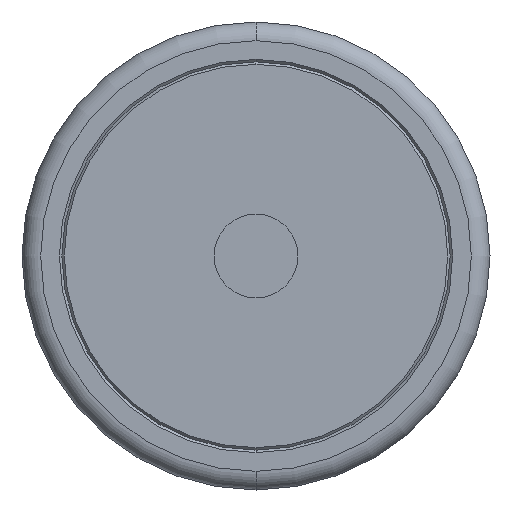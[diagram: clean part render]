
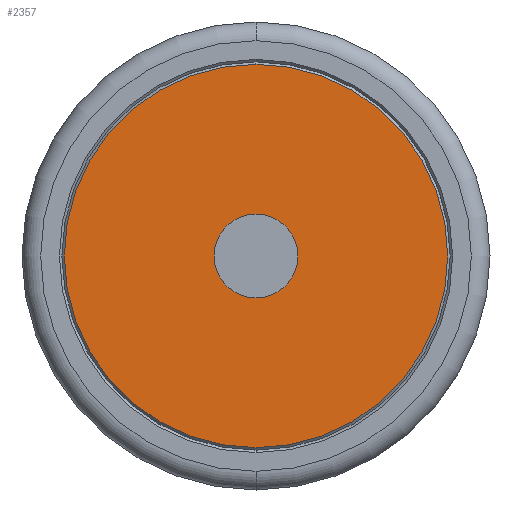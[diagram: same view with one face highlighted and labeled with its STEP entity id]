
A CAD part, front view. The second image highlights one B-rep face of the part: STEP entity #2357.
In plain terms, the highlighted planar face has unit normal (0, -1, 0).
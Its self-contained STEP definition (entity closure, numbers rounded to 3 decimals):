
#29 = AXIS2_PLACEMENT_3D ( 'NONE', #3801, #882, #61 ) ;
#61 = DIRECTION ( 'NONE',  ( 0., 0., -1. ) ) ;
#78 = AXIS2_PLACEMENT_3D ( 'NONE', #4678, #3991, #3621 ) ;
#337 = CIRCLE ( 'NONE', #3146, 22.4 ) ;
#350 = CARTESIAN_POINT ( 'NONE',  ( 0., 0., 0. ) ) ;
#420 = ORIENTED_EDGE ( 'NONE', *, *, #3551, .F. ) ;
#536 = AXIS2_PLACEMENT_3D ( 'NONE', #350, #1841, #3335 ) ;
#745 = VERTEX_POINT ( 'NONE', #3221 ) ;
#788 = CIRCLE ( 'NONE', #78, 102.4 ) ;
#805 = CARTESIAN_POINT ( 'NONE',  ( 0., 0., 22.4 ) ) ;
#847 = DIRECTION ( 'NONE',  ( 0., 0., -1. ) ) ;
#882 = DIRECTION ( 'NONE',  ( 0., -1., 0. ) ) ;
#1176 = PLANE ( 'NONE',  #29 ) ;
#1460 = ORIENTED_EDGE ( 'NONE', *, *, #3296, .T. ) ;
#1523 = CARTESIAN_POINT ( 'NONE',  ( 0., 0., 0. ) ) ;
#1564 = DIRECTION ( 'NONE',  ( 0., 1., 0. ) ) ;
#1661 = CARTESIAN_POINT ( 'NONE',  ( 0., 0., 0. ) ) ;
#1727 = DIRECTION ( 'NONE',  ( 0., 0., -1. ) ) ;
#1738 = CARTESIAN_POINT ( 'NONE',  ( 0., 0., -102.4 ) ) ;
#1841 = DIRECTION ( 'NONE',  ( 0., 1., 0. ) ) ;
#1858 = EDGE_CURVE ( 'NONE', #745, #3437, #337, .T. ) ;
#2172 = VERTEX_POINT ( 'NONE', #2200 ) ;
#2200 = CARTESIAN_POINT ( 'NONE',  ( 0., 0., 102.4 ) ) ;
#2243 = EDGE_CURVE ( 'NONE', #2172, #2412, #4481, .T. ) ;
#2288 = FACE_OUTER_BOUND ( 'NONE', #4783, .T. ) ;
#2357 = ADVANCED_FACE ( 'NONE', ( #3057, #2288 ), #1176, .T. ) ;
#2412 = VERTEX_POINT ( 'NONE', #1738 ) ;
#2597 = AXIS2_PLACEMENT_3D ( 'NONE', #1661, #2792, #1727 ) ;
#2792 = DIRECTION ( 'NONE',  ( 0., 1., 0. ) ) ;
#2891 = CIRCLE ( 'NONE', #536, 22.4 ) ;
#3057 = FACE_BOUND ( 'NONE', #4288, .T. ) ;
#3146 = AXIS2_PLACEMENT_3D ( 'NONE', #1523, #1564, #847 ) ;
#3221 = CARTESIAN_POINT ( 'NONE',  ( 0., 0., -22.4 ) ) ;
#3233 = ORIENTED_EDGE ( 'NONE', *, *, #1858, .T. ) ;
#3296 = EDGE_CURVE ( 'NONE', #3437, #745, #2891, .T. ) ;
#3335 = DIRECTION ( 'NONE',  ( 0., 0., -1. ) ) ;
#3437 = VERTEX_POINT ( 'NONE', #805 ) ;
#3551 = EDGE_CURVE ( 'NONE', #2412, #2172, #788, .T. ) ;
#3621 = DIRECTION ( 'NONE',  ( 0., 0., -1. ) ) ;
#3801 = CARTESIAN_POINT ( 'NONE',  ( 22.4, 0., 0. ) ) ;
#3991 = DIRECTION ( 'NONE',  ( 0., 1., 0. ) ) ;
#4288 = EDGE_LOOP ( 'NONE', ( #3233, #1460 ) ) ;
#4313 = ORIENTED_EDGE ( 'NONE', *, *, #2243, .F. ) ;
#4481 = CIRCLE ( 'NONE', #2597, 102.4 ) ;
#4678 = CARTESIAN_POINT ( 'NONE',  ( 0., 0., 0. ) ) ;
#4783 = EDGE_LOOP ( 'NONE', ( #420, #4313 ) ) ;
